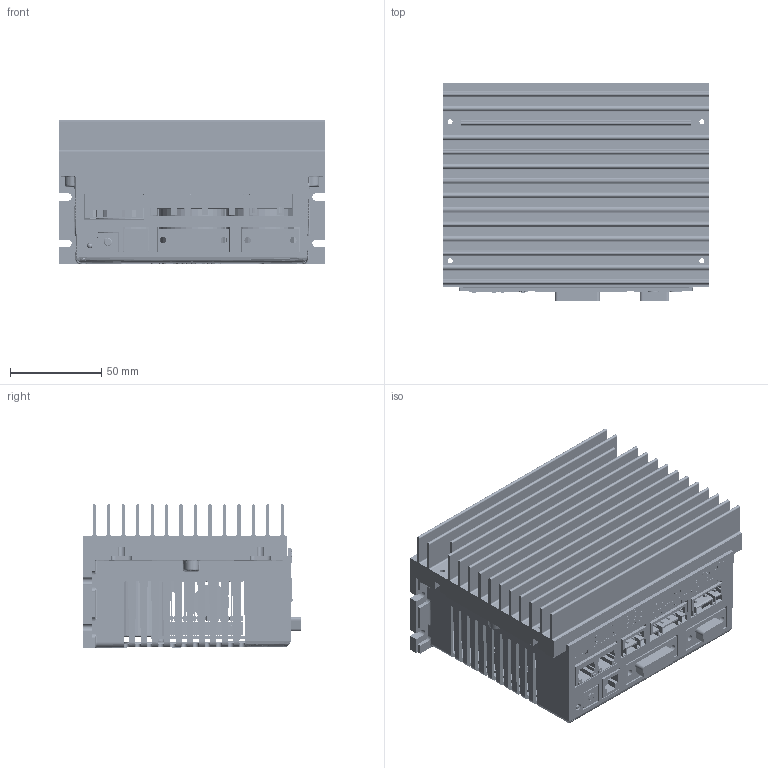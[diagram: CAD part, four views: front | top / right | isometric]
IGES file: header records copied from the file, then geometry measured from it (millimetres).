
Start section: SolidWorks IGES file using analytic representation for surfaces
Global section: file name: E:\ALL Users\Chris Roy\Projects\CMS\Customer Files\AMP\STX\STX-MECH-ASSY.IGS; native system: SolidWorks 2008; preprocessor: SolidWorks 2008; author: croy; date: 081024.123506; units: inch
Bounding box: 145.54 x 119.46 x 78.54 mm (x, y, z)
Surface area: 362712.6 mm2 (no closed solid volume)
Topology: 0 solids, 0 shells, 26455 faces, 183923 edges, 183890 vertices
Faces by surface type: bspline 21944, revolution 4511
